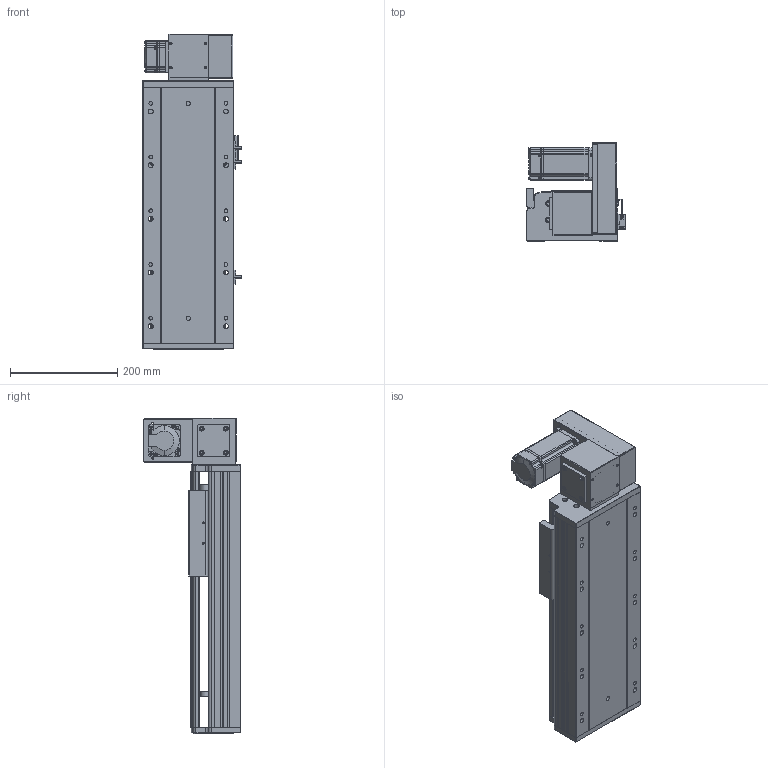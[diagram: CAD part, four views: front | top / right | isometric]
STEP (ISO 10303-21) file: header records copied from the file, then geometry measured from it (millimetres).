
FILE_DESCRIPTION (( 'STEP AP203' ), '1' );
FILE_NAME ('RY170-T-300-UR-P400W.SLDASM_200.step', '2021-03-01T09:26:43', ( '盈信电脑' ), ( '东莞市道滘镇水果街19号' ), 'SwSTEP 2.0', 'SolidWorks 2012', '' );
FILE_SCHEMA (( 'CONFIG_CONTROL_DESIGN' ));
Products named in the file (18): RY170-T-300-UR-P400W.SLDASM_200; 15; 滅袉蝶18-10; RY170-T肮祭謫裔啣; RY170-T肮祭湍揤踡輸2; RY170-T蹟翐M4; RY120-T主同步轮轴承压盖; RY170同步轮电机安装板(400W); RY170肮祭謫萇儂欶; RY170-T肮祭湍揤踡輸1; RY170翋肮祭謫釱; 覜茼ん672; RY170肮祭謫ヶ裔啣; RY170外置感应片(200共用）; RY170綴裔啣; RY170肮祭湍臏賑輸; RY170-T-300肮祭謫倰第菁釱-DR_200; RY170-T-300肮祭謫倰第裔啣-DR_200
Assembly tree (22 placements, depth 2):
  RY170-T-300-UR-P400W.SLDASM_200
    RY170-T-300肮祭謫倰第菁釱-DR_200
    RY170肮祭湍臏賑輸
    RY170-T-300肮祭謫倰第裔啣-DR_200
    RY170綴裔啣
    覜茼ん672  x3
    RY170外置感应片(200共用）
    RY170肮祭謫ヶ裔啣
    RY170翋肮祭謫釱
    RY170同步轮电机安装板(400W)
    RY170肮祭謫萇儂欶
    RY170-T肮祭湍揤踡輸1  x2
    RY170-T肮祭湍揤踡輸2  x2
    RY120-T主同步轮轴承压盖
    RY170-T肮祭謫裔啣
    RY170-T蹟翐M4
    滅袉蝶18-10  x2
    15
Bounding box: 183.7 x 182 x 588 mm (x, y, z)
Volume: 3577111.4 mm3; surface area: 1164420.5 mm2
Topology: 22 solids, 22 shells, 2576 faces, 7098 edges, 4587 vertices
Faces by surface type: plane 1256, cylinder 1106, cone 184, bspline 30
Entity records: 75536 total; most frequent: CARTESIAN_POINT 16272, ORIENTED_EDGE 12008, DIRECTION 11894, EDGE_CURVE 6004, AXIS2_PLACEMENT_3D 4139, VERTEX_POINT 3943, VECTOR 3616, LINE 3616
